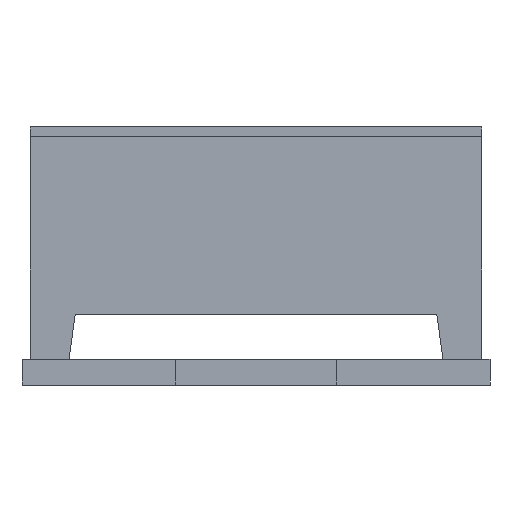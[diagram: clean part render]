
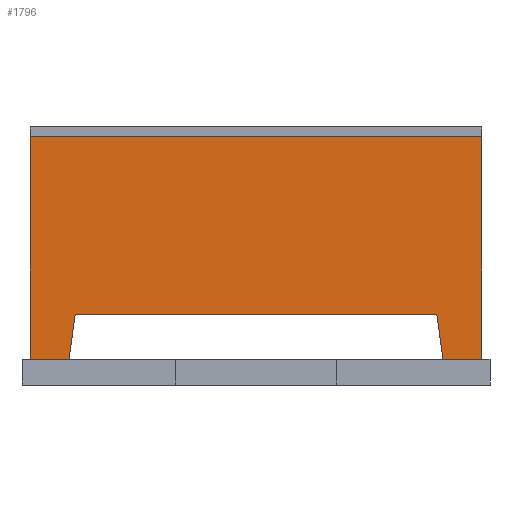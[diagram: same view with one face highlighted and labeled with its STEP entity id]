
A CAD part, left-side view. The second image highlights one B-rep face of the part: STEP entity #1796.
In plain terms, the highlighted planar face has unit normal (-1, 0, 0).
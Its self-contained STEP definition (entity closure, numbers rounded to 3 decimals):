
#121 = VERTEX_POINT ( 'NONE', #5519 ) ;
#335 = LINE ( 'NONE', #8314, #7240 ) ;
#338 = LINE ( 'NONE', #5699, #6536 ) ;
#408 = VECTOR ( 'NONE', #2171, 1000. ) ;
#423 = EDGE_CURVE ( 'NONE', #1513, #1151, #1947, .T. ) ;
#497 = CARTESIAN_POINT ( 'NONE',  ( -22.5, 0., 2.75 ) ) ;
#743 = DIRECTION ( 'NONE',  ( 0., -1., 0. ) ) ;
#1057 = CARTESIAN_POINT ( 'NONE',  ( -22.5, 0., 2.75 ) ) ;
#1063 = ORIENTED_EDGE ( 'NONE', *, *, #3197, .F. ) ;
#1091 = DIRECTION ( 'NONE',  ( 0., 0., -1. ) ) ;
#1151 = VERTEX_POINT ( 'NONE', #1226 ) ;
#1165 = DIRECTION ( 'NONE',  ( 0., 0., -1. ) ) ;
#1226 = CARTESIAN_POINT ( 'NONE',  ( -22.5, 0., -4.15 ) ) ;
#1339 = ORIENTED_EDGE ( 'NONE', *, *, #5658, .F. ) ;
#1448 = CARTESIAN_POINT ( 'NONE',  ( -22.5, -1.203, -4.15 ) ) ;
#1496 = EDGE_LOOP ( 'NONE', ( #6352, #3858, #5047, #3272, #8029, #6276, #1339, #1063 ) ) ;
#1513 = VERTEX_POINT ( 'NONE', #5674 ) ;
#1756 = VERTEX_POINT ( 'NONE', #3109 ) ;
#1773 = VECTOR ( 'NONE', #1165, 1000. ) ;
#1796 = ADVANCED_FACE ( 'NONE', ( #8507 ), #2251, .F. ) ;
#1947 = LINE ( 'NONE', #497, #1773 ) ;
#2171 = DIRECTION ( 'NONE',  ( 0., -1., 0. ) ) ;
#2251 = PLANE ( 'NONE',  #6915 ) ;
#2470 = LINE ( 'NONE', #3185, #5960 ) ;
#2997 = VECTOR ( 'NONE', #7581, 1000. ) ;
#3047 = DIRECTION ( 'NONE',  ( 0., -0.139, -0.99 ) ) ;
#3109 = CARTESIAN_POINT ( 'NONE',  ( -22.5, -12.797, -4.15 ) ) ;
#3185 = CARTESIAN_POINT ( 'NONE',  ( -22.5, 0., -4.15 ) ) ;
#3197 = EDGE_CURVE ( 'NONE', #1513, #7851, #6117, .T. ) ;
#3272 = ORIENTED_EDGE ( 'NONE', *, *, #5032, .T. ) ;
#3486 = CARTESIAN_POINT ( 'NONE',  ( -22.5, 0., 2.75 ) ) ;
#3754 = LINE ( 'NONE', #8198, #2997 ) ;
#3858 = ORIENTED_EDGE ( 'NONE', *, *, #6390, .F. ) ;
#3902 = VERTEX_POINT ( 'NONE', #5484 ) ;
#4042 = EDGE_CURVE ( 'NONE', #121, #1756, #2470, .T. ) ;
#4443 = VERTEX_POINT ( 'NONE', #1448 ) ;
#4640 = CARTESIAN_POINT ( 'NONE',  ( -22.5, -14., 2.75 ) ) ;
#5032 = EDGE_CURVE ( 'NONE', #3902, #8055, #5532, .T. ) ;
#5047 = ORIENTED_EDGE ( 'NONE', *, *, #8484, .T. ) ;
#5151 = VECTOR ( 'NONE', #743, 1000. ) ;
#5354 = VECTOR ( 'NONE', #7692, 1000. ) ;
#5484 = CARTESIAN_POINT ( 'NONE',  ( -22.5, -1.4, -2.75 ) ) ;
#5519 = CARTESIAN_POINT ( 'NONE',  ( -22.5, -14., -4.15 ) ) ;
#5532 = LINE ( 'NONE', #5578, #408 ) ;
#5578 = CARTESIAN_POINT ( 'NONE',  ( -22.5, 0., -2.75 ) ) ;
#5601 = CARTESIAN_POINT ( 'NONE',  ( -22.5, -12.6, -2.75 ) ) ;
#5658 = EDGE_CURVE ( 'NONE', #7851, #121, #8360, .T. ) ;
#5674 = CARTESIAN_POINT ( 'NONE',  ( -22.5, 0., 2.75 ) ) ;
#5699 = CARTESIAN_POINT ( 'NONE',  ( -22.5, 0., -4.15 ) ) ;
#5761 = DIRECTION ( 'NONE',  ( 0., 1., 0. ) ) ;
#5960 = VECTOR ( 'NONE', #5761, 1000. ) ;
#6117 = LINE ( 'NONE', #3486, #5151 ) ;
#6276 = ORIENTED_EDGE ( 'NONE', *, *, #4042, .F. ) ;
#6352 = ORIENTED_EDGE ( 'NONE', *, *, #423, .T. ) ;
#6363 = CARTESIAN_POINT ( 'NONE',  ( -22.5, -14., 2.75 ) ) ;
#6390 = EDGE_CURVE ( 'NONE', #4443, #1151, #338, .T. ) ;
#6536 = VECTOR ( 'NONE', #7074, 1000. ) ;
#6915 = AXIS2_PLACEMENT_3D ( 'NONE', #1057, #7669, #1091 ) ;
#7074 = DIRECTION ( 'NONE',  ( 0., 1., 0. ) ) ;
#7240 = VECTOR ( 'NONE', #3047, 1000. ) ;
#7581 = DIRECTION ( 'NONE',  ( 0., -0.139, 0.99 ) ) ;
#7669 = DIRECTION ( 'NONE',  ( 1., 0., 0. ) ) ;
#7692 = DIRECTION ( 'NONE',  ( 0., 0., -1. ) ) ;
#7851 = VERTEX_POINT ( 'NONE', #4640 ) ;
#8029 = ORIENTED_EDGE ( 'NONE', *, *, #8692, .T. ) ;
#8055 = VERTEX_POINT ( 'NONE', #5601 ) ;
#8198 = CARTESIAN_POINT ( 'NONE',  ( -22.5, -2.131, 2.451 ) ) ;
#8314 = CARTESIAN_POINT ( 'NONE',  ( -22.5, -11.598, 4.38 ) ) ;
#8360 = LINE ( 'NONE', #6363, #5354 ) ;
#8484 = EDGE_CURVE ( 'NONE', #4443, #3902, #3754, .T. ) ;
#8507 = FACE_OUTER_BOUND ( 'NONE', #1496, .T. ) ;
#8692 = EDGE_CURVE ( 'NONE', #8055, #1756, #335, .T. ) ;
